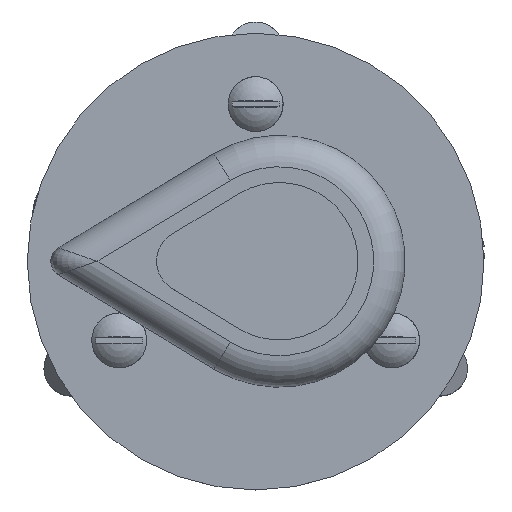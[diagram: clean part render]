
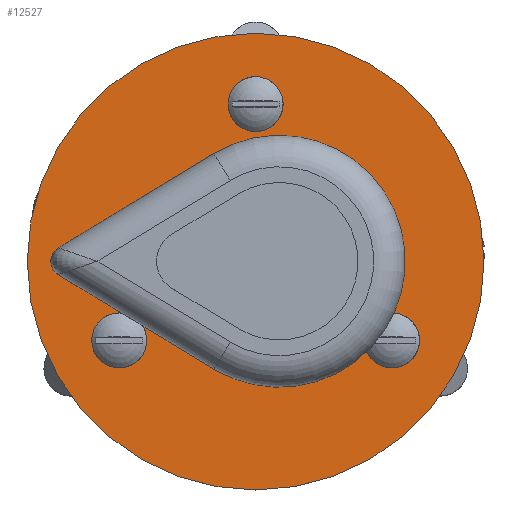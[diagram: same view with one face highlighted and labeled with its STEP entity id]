
A CAD part, top view. The second image highlights one B-rep face of the part: STEP entity #12527.
In plain terms, the highlighted planar face has unit normal (0, 0, 1).
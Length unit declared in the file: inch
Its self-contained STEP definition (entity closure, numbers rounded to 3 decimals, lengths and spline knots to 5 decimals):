
#1191=PLANE('',#13227);
#2152=ORIENTED_EDGE('',*,*,#4271,.F.);
#2153=ORIENTED_EDGE('',*,*,#4272,.F.);
#2154=ORIENTED_EDGE('',*,*,#4273,.F.);
#2155=ORIENTED_EDGE('',*,*,#4274,.T.);
#2156=ORIENTED_EDGE('',*,*,#4270,.T.);
#4270=EDGE_CURVE('',#5358,#5358,#6055,.T.);
#4271=EDGE_CURVE('',#5359,#5359,#6056,.T.);
#4272=EDGE_CURVE('',#5360,#5360,#6057,.T.);
#4273=EDGE_CURVE('',#5361,#5361,#6058,.T.);
#4274=EDGE_CURVE('',#5362,#5362,#6059,.T.);
#5358=VERTEX_POINT('',#19491);
#5359=VERTEX_POINT('',#19494);
#5360=VERTEX_POINT('',#19496);
#5361=VERTEX_POINT('',#19498);
#5362=VERTEX_POINT('',#19500);
#6055=CIRCLE('',#13226,0.25);
#6056=CIRCLE('',#13228,0.218);
#6057=CIRCLE('',#13229,0.218);
#6058=CIRCLE('',#13230,0.218);
#6059=CIRCLE('',#13231,1.8125);
#6718=EDGE_LOOP('',(#2152));
#6719=EDGE_LOOP('',(#2153));
#6720=EDGE_LOOP('',(#2154));
#6721=EDGE_LOOP('',(#2155));
#6722=EDGE_LOOP('',(#2156));
#7510=FACE_BOUND('',#6718,.T.);
#7511=FACE_BOUND('',#6719,.T.);
#7512=FACE_BOUND('',#6720,.T.);
#7513=FACE_BOUND('',#6721,.T.);
#7514=FACE_BOUND('',#6722,.T.);
#12527=ADVANCED_FACE('',(#7510,#7511,#7512,#7513,#7514),#1191,.T.);
#13226=AXIS2_PLACEMENT_3D('',#19490,#14716,#14717);
#13227=AXIS2_PLACEMENT_3D('',#19492,#14718,#14719);
#13228=AXIS2_PLACEMENT_3D('',#19493,#14720,#14721);
#13229=AXIS2_PLACEMENT_3D('',#19495,#14722,#14723);
#13230=AXIS2_PLACEMENT_3D('',#19497,#14724,#14725);
#13231=AXIS2_PLACEMENT_3D('',#19499,#14726,#14727);
#14716=DIRECTION('',(0.,0.,-1.));
#14717=DIRECTION('',(0.,1.,0.));
#14718=DIRECTION('',(0.,0.,1.));
#14719=DIRECTION('',(1.,0.,0.));
#14720=DIRECTION('',(0.,0.,1.));
#14721=DIRECTION('',(1.,0.,0.));
#14722=DIRECTION('',(0.,0.,1.));
#14723=DIRECTION('',(1.,0.,0.));
#14724=DIRECTION('',(0.,0.,1.));
#14725=DIRECTION('',(1.,0.,0.));
#14726=DIRECTION('',(0.,0.,1.));
#14727=DIRECTION('',(0.,1.,0.));
#19490=CARTESIAN_POINT('',(0.,0.,3.048));
#19491=CARTESIAN_POINT('',(0.,0.25,3.048));
#19492=CARTESIAN_POINT('',(0.,0.,3.048));
#19493=CARTESIAN_POINT('',(0.,1.25,3.048));
#19494=CARTESIAN_POINT('',(0.218,1.25,3.048));
#19495=CARTESIAN_POINT('',(1.08253,-0.625,3.048));
#19496=CARTESIAN_POINT('',(1.30053,-0.625,3.048));
#19497=CARTESIAN_POINT('',(-1.08253,-0.625,3.048));
#19498=CARTESIAN_POINT('',(-0.86453,-0.625,3.048));
#19499=CARTESIAN_POINT('',(0.,0.,3.048));
#19500=CARTESIAN_POINT('',(0.,1.8125,3.048));
